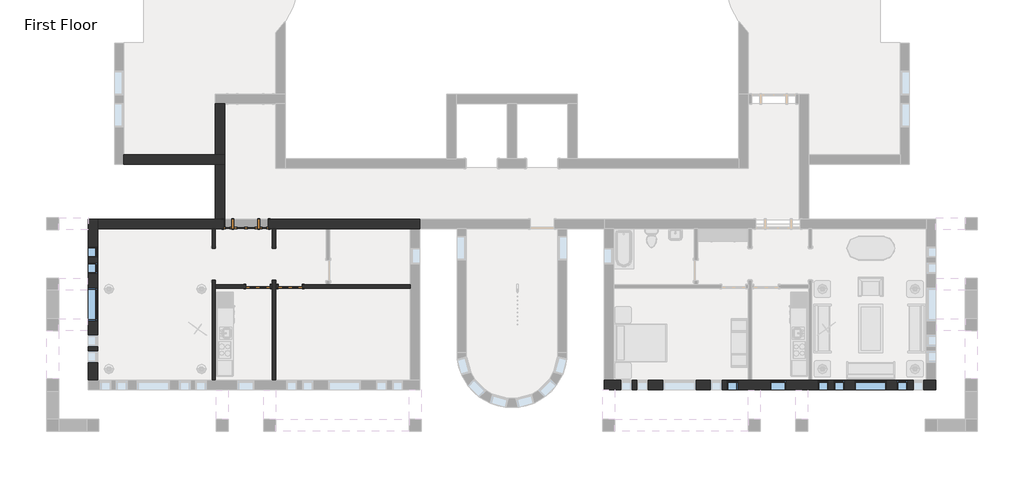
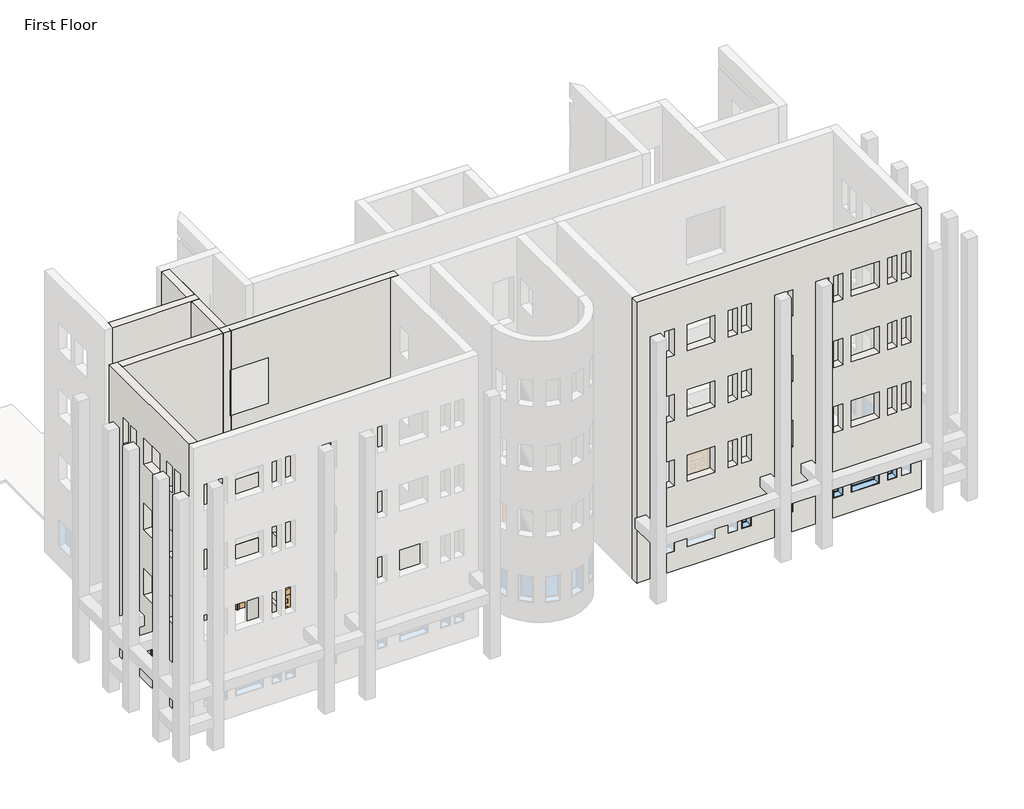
# One storey, part 3 of 23: 10 walls, 9 windows, 3 doors.
"""IFC4 building model written with IfcOpenShell, lengths in millimetres."""

from ifc_helpers import new_model, si_unit, frame, origin, place, context, project, spatial, polyline, outline, extrude, faceted_brep, transform, mapped, element, save
from components import door_829da954, door_2e3b4da2, door_dba5aa2e, window_da97879f, window_d61ef850, window_ed80354a, window_6eb97611, window_d89bf842

model = new_model("IFC4")

# Units and contexts
model_context = context("Model", 3, world=origin())
ifc_project = project(units=[si_unit("LENGTHUNIT", "METRE", prefix="MILLI")], contexts=[model_context])

# Site, building, storey
site = spatial("IfcSite", under=ifc_project)
building = spatial("IfcBuilding", under=site)
storey = spatial("IfcBuildingStorey", under=building, Name="First Floor", Elevation=0.0)

# Doors
placement = place(None, origin())
door_shape = door_829da954(model_context)
element("IfcDoor", 1, ObjectType="Single-Decorative 2 : 36\" x 84\"", at=placement, inside=storey, context=model_context, shape_type="MappedRepresentation", body=[
    mapped(door_shape, transform((-24674.4839563, -30331.8808133, 0.0), x_axis=(1.0, 0.0, 0.0), y_axis=(0.0, 1.0, 0.0), z_axis=(0.0, 0.0, 1.0))),
])
door_2_shape = door_2e3b4da2(model_context)
element("IfcDoor", 2, ObjectType="Single-Decorative 2 : 36\" x 84\"", at=placement, inside=storey, context=model_context, shape_type="MappedRepresentation", body=[
    mapped(door_2_shape, transform((-23455.2839563, -30331.8808133, 0.0), x_axis=(-1.0, 0.0, 0.0), y_axis=(0.0, -1.0, 0.0), z_axis=(0.0, 0.0, 1.0))),
])
door_3_shape = door_dba5aa2e(model_context)
element("IfcDoor", 3, ObjectType="Single-Raised Panel with Sidelights : 36\" x 84\"", at=placement, inside=storey, context=model_context, shape_type="MappedRepresentation", body=[
    mapped(door_3_shape, transform((-25131.6839563, -27958.5683133, 0.0), x_axis=(1.0, 0.0, 0.0), y_axis=(0.0, 1.0, 0.0), z_axis=(0.0, 0.0, 1.0))),
])

# Walls
element("IfcWall", 4, ObjectType="Exterior - Brick on Mtl. Stud", at=placement, inside=storey, context=model_context, shape_type="Brep", body=[
    faceted_brep([(-11569.6714563, -34230.7808133, 0.0), (-11382.3464563, -34230.7808133, 0.0), (787.4285437, -34230.7808133, 0.0), (974.7535437, -34230.7808133, 0.0), (974.7535437, -34230.7808133, 13106.4), (-11569.6714563, -34230.7808133, 13106.4), (-90.4589563, -34230.7808133, 8229.6), (-90.4589563, -34230.7808133, 7010.4), (-496.8589563, -34230.7808133, 7010.4), (-496.8589563, -34230.7808133, 8229.6), (519.1410437, -34230.7808133, 8229.6), (519.1410437, -34230.7808133, 7010.4), (112.7410437, -34230.7808133, 7010.4), (112.7410437, -34230.7808133, 8229.6), (-2884.4589563, -34230.7808133, 8229.6), (-2478.0589563, -34230.7808133, 8229.6), (-2478.0589563, -34230.7808133, 7010.4), (-2884.4589563, -34230.7808133, 7010.4), (-3494.0589563, -34230.7808133, 8229.6), (-3087.6589563, -34230.7808133, 8229.6), (-3087.6589563, -34230.7808133, 7010.4), (-3494.0589563, -34230.7808133, 7010.4), (-7126.2589563, -34230.7808133, 8229.6), (-7126.2589563, -34230.7808133, 7010.4), (-7532.6589563, -34230.7808133, 7010.4), (-7532.6589563, -34230.7808133, 8229.6), (-6516.6589563, -34230.7808133, 8229.6), (-6516.6589563, -34230.7808133, 7010.4), (-6923.0589563, -34230.7808133, 7010.4), (-6923.0589563, -34230.7808133, 8229.6), (-10326.6589563, -34230.7808133, 8229.6), (-9920.2589563, -34230.7808133, 8229.6), (-9920.2589563, -34230.7808133, 7010.4), (-10326.6589563, -34230.7808133, 7010.4), (-10936.2589563, -34230.7808133, 8229.6), (-10529.8589563, -34230.7808133, 8229.6), (-10529.8589563, -34230.7808133, 7010.4), (-10936.2589563, -34230.7808133, 7010.4), (-2097.0589563, -34230.7808133, 8229.6), (-877.8589563, -34230.7808133, 8229.6), (-877.8589563, -34230.7808133, 7010.4), (-2097.0589563, -34230.7808133, 7010.4), (-9336.0589563, -34230.7808133, 8229.6), (-8116.8589563, -34230.7808133, 8229.6), (-8116.8589563, -34230.7808133, 7010.4), (-9336.0589563, -34230.7808133, 7010.4), (-5297.4589563, -34230.7808133, 8229.6), (-4687.8589563, -34230.7808133, 8229.6), (-4687.8589563, -34230.7808133, 7010.4), (-5297.4589563, -34230.7808133, 7010.4), (-90.4589563, -34230.7808133, 5181.6), (-90.4589563, -34230.7808133, 3962.4), (-496.8589563, -34230.7808133, 3962.4), (-496.8589563, -34230.7808133, 5181.6), (519.1410437, -34230.7808133, 5181.6), (519.1410437, -34230.7808133, 3962.4), (112.7410437, -34230.7808133, 3962.4), (112.7410437, -34230.7808133, 5181.6), (-2884.4589563, -34230.7808133, 5181.6), (-2478.0589563, -34230.7808133, 5181.6), (-2478.0589563, -34230.7808133, 3962.4), (-2884.4589563, -34230.7808133, 3962.4), (-3494.0589563, -34230.7808133, 5181.6), (-3087.6589563, -34230.7808133, 5181.6), (-3087.6589563, -34230.7808133, 3962.4), (-3494.0589563, -34230.7808133, 3962.4), (-7126.2589563, -34230.7808133, 5181.6), (-7126.2589563, -34230.7808133, 3962.4), (-7532.6589563, -34230.7808133, 3962.4), (-7532.6589563, -34230.7808133, 5181.6), (-6516.6589563, -34230.7808133, 5181.6), (-6516.6589563, -34230.7808133, 3962.4), (-6923.0589563, -34230.7808133, 3962.4), (-6923.0589563, -34230.7808133, 5181.6), (-10326.6589563, -34230.7808133, 5181.6), (-9920.2589563, -34230.7808133, 5181.6), (-9920.2589563, -34230.7808133, 3962.4), (-10326.6589563, -34230.7808133, 3962.4), (-10936.2589563, -34230.7808133, 5181.6), (-10529.8589563, -34230.7808133, 5181.6), (-10529.8589563, -34230.7808133, 3962.4), (-10936.2589563, -34230.7808133, 3962.4), (-2097.0589563, -34230.7808133, 5181.6), (-877.8589563, -34230.7808133, 5181.6), (-877.8589563, -34230.7808133, 3962.4), (-2097.0589563, -34230.7808133, 3962.4), (-9336.0589563, -34230.7808133, 5181.6), (-8116.8589563, -34230.7808133, 5181.6), (-8116.8589563, -34230.7808133, 3962.4), (-9336.0589563, -34230.7808133, 3962.4), (-5297.4589563, -34230.7808133, 5181.6), (-4687.8589563, -34230.7808133, 5181.6), (-4687.8589563, -34230.7808133, 3962.4), (-5297.4589563, -34230.7808133, 3962.4), (-90.4589563, -34230.7808133, 11277.6), (-90.4589563, -34230.7808133, 10058.4), (-496.8589563, -34230.7808133, 10058.4), (-496.8589563, -34230.7808133, 11277.6), (519.1410437, -34230.7808133, 11277.6), (519.1410437, -34230.7808133, 10058.4), (112.7410437, -34230.7808133, 10058.4), (112.7410437, -34230.7808133, 11277.6), (-2884.4589563, -34230.7808133, 11277.6), (-2478.0589563, -34230.7808133, 11277.6), (-2478.0589563, -34230.7808133, 10058.4), (-2884.4589563, -34230.7808133, 10058.4), (-3494.0589563, -34230.7808133, 11277.6), (-3087.6589563, -34230.7808133, 11277.6), (-3087.6589563, -34230.7808133, 10058.4), (-3494.0589563, -34230.7808133, 10058.4), (-7126.2589563, -34230.7808133, 11277.6), (-7126.2589563, -34230.7808133, 10058.4), (-7532.6589563, -34230.7808133, 10058.4), (-7532.6589563, -34230.7808133, 11277.6), (-6516.6589563, -34230.7808133, 11277.6), (-6516.6589563, -34230.7808133, 10058.4), (-6923.0589563, -34230.7808133, 10058.4), (-6923.0589563, -34230.7808133, 11277.6), (-10326.6589563, -34230.7808133, 11277.6), (-9920.2589563, -34230.7808133, 11277.6), (-9920.2589563, -34230.7808133, 10058.4), (-10326.6589563, -34230.7808133, 10058.4), (-10936.2589563, -34230.7808133, 11277.6), (-10529.8589563, -34230.7808133, 11277.6), (-10529.8589563, -34230.7808133, 10058.4), (-10936.2589563, -34230.7808133, 10058.4), (-2097.0589563, -34230.7808133, 11277.6), (-877.8589563, -34230.7808133, 11277.6), (-877.8589563, -34230.7808133, 10058.4), (-2097.0589563, -34230.7808133, 10058.4), (-9336.0589563, -34230.7808133, 11277.6), (-8116.8589563, -34230.7808133, 11277.6), (-8116.8589563, -34230.7808133, 10058.4), (-9336.0589563, -34230.7808133, 10058.4), (-5297.4589563, -34230.7808133, 11277.6), (-4687.8589563, -34230.7808133, 11277.6), (-4687.8589563, -34230.7808133, 10058.4), (-5297.4589563, -34230.7808133, 10058.4), (-90.4589563, -34230.7808133, 2133.6), (-90.4589563, -34230.7808133, 914.4), (-496.8589563, -34230.7808133, 914.4), (-496.8589563, -34230.7808133, 2133.6), (519.1410437, -34230.7808133, 2133.6), (519.1410437, -34230.7808133, 914.4), (112.7410437, -34230.7808133, 914.4), (112.7410437, -34230.7808133, 2133.6), (-2884.4589563, -34230.7808133, 2133.6), (-2478.0589563, -34230.7808133, 2133.6), (-2478.0589563, -34230.7808133, 914.4), (-2884.4589563, -34230.7808133, 914.4), (-3494.0589563, -34230.7808133, 2133.6), (-3087.6589563, -34230.7808133, 2133.6), (-3087.6589563, -34230.7808133, 914.4), (-3494.0589563, -34230.7808133, 914.4), (-7126.2589563, -34230.7808133, 2133.6), (-7126.2589563, -34230.7808133, 914.4), (-7532.6589563, -34230.7808133, 914.4), (-7532.6589563, -34230.7808133, 2133.6), (-6516.6589563, -34230.7808133, 2133.6), (-6516.6589563, -34230.7808133, 914.4), (-6923.0589563, -34230.7808133, 914.4), (-6923.0589563, -34230.7808133, 2133.6), (-10326.6589563, -34230.7808133, 2133.6), (-9920.2589563, -34230.7808133, 2133.6), (-9920.2589563, -34230.7808133, 914.4), (-10326.6589563, -34230.7808133, 914.4), (-10936.2589563, -34230.7808133, 2133.6), (-10529.8589563, -34230.7808133, 2133.6), (-10529.8589563, -34230.7808133, 914.4), (-10936.2589563, -34230.7808133, 914.4), (-2097.0589563, -34230.7808133, 2133.6), (-877.8589563, -34230.7808133, 2133.6), (-877.8589563, -34230.7808133, 914.4), (-2097.0589563, -34230.7808133, 914.4), (-9336.0589563, -34230.7808133, 2133.6), (-8116.8589563, -34230.7808133, 2133.6), (-8116.8589563, -34230.7808133, 914.4), (-9336.0589563, -34230.7808133, 914.4), (-5297.4589563, -34230.7808133, 2133.6), (-4687.8589563, -34230.7808133, 2133.6), (-4687.8589563, -34230.7808133, 914.4), (-5297.4589563, -34230.7808133, 914.4), (-11569.6714563, -33878.3558133, 0.0), (-11569.6714563, -33878.3558133, 13106.4), (-11217.2464563, -33878.3558133, 13106.4), (622.3285437, -33878.3558133, 13106.4), (974.7535437, -33878.3558133, 13106.4), (974.7535437, -33878.3558133, 0.0), (787.4285437, -33878.3558133, 0.0), (622.3285437, -33878.3558133, 0.0), (-3709.9589563, -33878.3558133, 0.0), (-3836.9589563, -33878.3558133, 0.0), (-5995.9589563, -33878.3558133, 0.0), (-6122.9589563, -33878.3558133, 0.0), (-11217.2464563, -33878.3558133, 0.0), (-11382.3464563, -33878.3558133, 0.0), (-90.4589563, -33878.3558133, 8229.6), (-496.8589563, -33878.3558133, 8229.6), (-496.8589563, -33878.3558133, 7010.4), (-90.4589563, -33878.3558133, 7010.4), (519.1410437, -33878.3558133, 8229.6), (112.7410437, -33878.3558133, 8229.6), (112.7410437, -33878.3558133, 7010.4), (519.1410437, -33878.3558133, 7010.4), (-2884.4589563, -33878.3558133, 8229.6), (-2884.4589563, -33878.3558133, 7010.4), (-2478.0589563, -33878.3558133, 7010.4), (-2478.0589563, -33878.3558133, 8229.6), (-3494.0589563, -33878.3558133, 8229.6), (-3494.0589563, -33878.3558133, 7010.4), (-3087.6589563, -33878.3558133, 7010.4), (-3087.6589563, -33878.3558133, 8229.6), (-7126.2589563, -33878.3558133, 8229.6), (-7532.6589563, -33878.3558133, 8229.6), (-7532.6589563, -33878.3558133, 7010.4), (-7126.2589563, -33878.3558133, 7010.4), (-6516.6589563, -33878.3558133, 8229.6), (-6923.0589563, -33878.3558133, 8229.6), (-6923.0589563, -33878.3558133, 7010.4), (-6516.6589563, -33878.3558133, 7010.4), (-10326.6589563, -33878.3558133, 8229.6), (-10326.6589563, -33878.3558133, 7010.4), (-9920.2589563, -33878.3558133, 7010.4), (-9920.2589563, -33878.3558133, 8229.6), (-10936.2589563, -33878.3558133, 8229.6), (-10936.2589563, -33878.3558133, 7010.4), (-10529.8589563, -33878.3558133, 7010.4), (-10529.8589563, -33878.3558133, 8229.6), (-2097.0589563, -33878.3558133, 8229.6), (-2097.0589563, -33878.3558133, 7010.4), (-877.8589563, -33878.3558133, 7010.4), (-877.8589563, -33878.3558133, 8229.6), (-9336.0589563, -33878.3558133, 8229.6), (-9336.0589563, -33878.3558133, 7010.4), (-8116.8589563, -33878.3558133, 7010.4), (-8116.8589563, -33878.3558133, 8229.6), (-5297.4589563, -33878.3558133, 8229.6), (-5297.4589563, -33878.3558133, 7010.4), (-4687.8589563, -33878.3558133, 7010.4), (-4687.8589563, -33878.3558133, 8229.6), (-90.4589563, -33878.3558133, 5181.6), (-496.8589563, -33878.3558133, 5181.6), (-496.8589563, -33878.3558133, 3962.4), (-90.4589563, -33878.3558133, 3962.4), (519.1410437, -33878.3558133, 5181.6), (112.7410437, -33878.3558133, 5181.6), (112.7410437, -33878.3558133, 3962.4), (519.1410437, -33878.3558133, 3962.4), (-2884.4589563, -33878.3558133, 5181.6), (-2884.4589563, -33878.3558133, 3962.4), (-2478.0589563, -33878.3558133, 3962.4), (-2478.0589563, -33878.3558133, 5181.6), (-3494.0589563, -33878.3558133, 5181.6), (-3494.0589563, -33878.3558133, 3962.4), (-3087.6589563, -33878.3558133, 3962.4), (-3087.6589563, -33878.3558133, 5181.6), (-7126.2589563, -33878.3558133, 5181.6), (-7532.6589563, -33878.3558133, 5181.6), (-7532.6589563, -33878.3558133, 3962.4), (-7126.2589563, -33878.3558133, 3962.4), (-6516.6589563, -33878.3558133, 5181.6), (-6923.0589563, -33878.3558133, 5181.6), (-6923.0589563, -33878.3558133, 3962.4), (-6516.6589563, -33878.3558133, 3962.4), (-10326.6589563, -33878.3558133, 5181.6), (-10326.6589563, -33878.3558133, 3962.4), (-9920.2589563, -33878.3558133, 3962.4), (-9920.2589563, -33878.3558133, 5181.6), (-10936.2589563, -33878.3558133, 5181.6), (-10936.2589563, -33878.3558133, 3962.4), (-10529.8589563, -33878.3558133, 3962.4), (-10529.8589563, -33878.3558133, 5181.6), (-2097.0589563, -33878.3558133, 5181.6), (-2097.0589563, -33878.3558133, 3962.4), (-877.8589563, -33878.3558133, 3962.4), (-877.8589563, -33878.3558133, 5181.6), (-9336.0589563, -33878.3558133, 5181.6), (-9336.0589563, -33878.3558133, 3962.4), (-8116.8589563, -33878.3558133, 3962.4), (-8116.8589563, -33878.3558133, 5181.6), (-5297.4589563, -33878.3558133, 5181.6), (-5297.4589563, -33878.3558133, 3962.4), (-4687.8589563, -33878.3558133, 3962.4), (-4687.8589563, -33878.3558133, 5181.6), (-90.4589563, -33878.3558133, 11277.6), (-496.8589563, -33878.3558133, 11277.6), (-496.8589563, -33878.3558133, 10058.4), (-90.4589563, -33878.3558133, 10058.4), (519.1410437, -33878.3558133, 11277.6), (112.7410437, -33878.3558133, 11277.6), (112.7410437, -33878.3558133, 10058.4), (519.1410437, -33878.3558133, 10058.4), (-2884.4589563, -33878.3558133, 11277.6), (-2884.4589563, -33878.3558133, 10058.4), (-2478.0589563, -33878.3558133, 10058.4), (-2478.0589563, -33878.3558133, 11277.6), (-3494.0589563, -33878.3558133, 11277.6), (-3494.0589563, -33878.3558133, 10058.4), (-3087.6589563, -33878.3558133, 10058.4), (-3087.6589563, -33878.3558133, 11277.6), (-7126.2589563, -33878.3558133, 11277.6), (-7532.6589563, -33878.3558133, 11277.6), (-7532.6589563, -33878.3558133, 10058.4), (-7126.2589563, -33878.3558133, 10058.4), (-6516.6589563, -33878.3558133, 11277.6), (-6923.0589563, -33878.3558133, 11277.6), (-6923.0589563, -33878.3558133, 10058.4), (-6516.6589563, -33878.3558133, 10058.4), (-10326.6589563, -33878.3558133, 11277.6), (-10326.6589563, -33878.3558133, 10058.4), (-9920.2589563, -33878.3558133, 10058.4), (-9920.2589563, -33878.3558133, 11277.6), (-10936.2589563, -33878.3558133, 11277.6), (-10936.2589563, -33878.3558133, 10058.4), (-10529.8589563, -33878.3558133, 10058.4), (-10529.8589563, -33878.3558133, 11277.6), (-2097.0589563, -33878.3558133, 11277.6), (-2097.0589563, -33878.3558133, 10058.4), (-877.8589563, -33878.3558133, 10058.4), (-877.8589563, -33878.3558133, 11277.6), (-9336.0589563, -33878.3558133, 11277.6), (-9336.0589563, -33878.3558133, 10058.4), (-8116.8589563, -33878.3558133, 10058.4), (-8116.8589563, -33878.3558133, 11277.6), (-5297.4589563, -33878.3558133, 11277.6), (-5297.4589563, -33878.3558133, 10058.4), (-4687.8589563, -33878.3558133, 10058.4), (-4687.8589563, -33878.3558133, 11277.6), (-90.4589563, -33878.3558133, 2133.6), (-496.8589563, -33878.3558133, 2133.6), (-496.8589563, -33878.3558133, 914.4), (-90.4589563, -33878.3558133, 914.4), (519.1410437, -33878.3558133, 2133.6), (112.7410437, -33878.3558133, 2133.6), (112.7410437, -33878.3558133, 914.4), (519.1410437, -33878.3558133, 914.4), (-2884.4589563, -33878.3558133, 2133.6), (-2884.4589563, -33878.3558133, 914.4), (-2478.0589563, -33878.3558133, 914.4), (-2478.0589563, -33878.3558133, 2133.6), (-3494.0589563, -33878.3558133, 2133.6), (-3494.0589563, -33878.3558133, 914.4), (-3087.6589563, -33878.3558133, 914.4), (-3087.6589563, -33878.3558133, 2133.6), (-7126.2589563, -33878.3558133, 2133.6), (-7532.6589563, -33878.3558133, 2133.6), (-7532.6589563, -33878.3558133, 914.4), (-7126.2589563, -33878.3558133, 914.4), (-6516.6589563, -33878.3558133, 2133.6), (-6923.0589563, -33878.3558133, 2133.6), (-6923.0589563, -33878.3558133, 914.4), (-6516.6589563, -33878.3558133, 914.4), (-10326.6589563, -33878.3558133, 2133.6), (-10326.6589563, -33878.3558133, 914.4), (-9920.2589563, -33878.3558133, 914.4), (-9920.2589563, -33878.3558133, 2133.6), (-10936.2589563, -33878.3558133, 2133.6), (-10936.2589563, -33878.3558133, 914.4), (-10529.8589563, -33878.3558133, 914.4), (-10529.8589563, -33878.3558133, 2133.6), (-2097.0589563, -33878.3558133, 2133.6), (-2097.0589563, -33878.3558133, 914.4), (-877.8589563, -33878.3558133, 914.4), (-877.8589563, -33878.3558133, 2133.6), (-9336.0589563, -33878.3558133, 2133.6), (-9336.0589563, -33878.3558133, 914.4), (-8116.8589563, -33878.3558133, 914.4), (-8116.8589563, -33878.3558133, 2133.6), (-5297.4589563, -33878.3558133, 2133.6), (-5297.4589563, -33878.3558133, 914.4), (-4687.8589563, -33878.3558133, 914.4), (-4687.8589563, -33878.3558133, 2133.6), (974.7535437, -34043.4558133, 0.0), (-11569.6714563, -34043.4558133, 0.0), (-11382.3464563, -34043.4558133, 0.0), (787.4285437, -34043.4558133, 0.0)], [[[0, 1, 2, 3, 4, 5], [6, 7, 8, 9], [10, 11, 12, 13], [14, 15, 16, 17], [18, 19, 20, 21], [22, 23, 24, 25], [26, 27, 28, 29], [30, 31, 32, 33], [34, 35, 36, 37], [38, 39, 40, 41], [42, 43, 44, 45], [46, 47, 48, 49], [50, 51, 52, 53], [54, 55, 56, 57], [58, 59, 60, 61], [62, 63, 64, 65], [66, 67, 68, 69], [70, 71, 72, 73], [74, 75, 76, 77], [78, 79, 80, 81], [82, 83, 84, 85], [86, 87, 88, 89], [90, 91, 92, 93], [94, 95, 96, 97], [98, 99, 100, 101], [102, 103, 104, 105], [106, 107, 108, 109], [110, 111, 112, 113], [114, 115, 116, 117], [118, 119, 120, 121], [122, 123, 124, 125], [126, 127, 128, 129], [130, 131, 132, 133], [134, 135, 136, 137], [138, 139, 140, 141], [142, 143, 144, 145], [146, 147, 148, 149], [150, 151, 152, 153], [154, 155, 156, 157], [158, 159, 160, 161], [162, 163, 164, 165], [166, 167, 168, 169], [170, 171, 172, 173], [174, 175, 176, 177], [178, 179, 180, 181]], [[182, 183, 184, 185, 186, 187, 188, 189, 190, 191, 192, 193, 194, 195], [196, 197, 198, 199], [200, 201, 202, 203], [204, 205, 206, 207], [208, 209, 210, 211], [212, 213, 214, 215], [216, 217, 218, 219], [220, 221, 222, 223], [224, 225, 226, 227], [228, 229, 230, 231], [232, 233, 234, 235], [236, 237, 238, 239], [240, 241, 242, 243], [244, 245, 246, 247], [248, 249, 250, 251], [252, 253, 254, 255], [256, 257, 258, 259], [260, 261, 262, 263], [264, 265, 266, 267], [268, 269, 270, 271], [272, 273, 274, 275], [276, 277, 278, 279], [280, 281, 282, 283], [284, 285, 286, 287], [288, 289, 290, 291], [292, 293, 294, 295], [296, 297, 298, 299], [300, 301, 302, 303], [304, 305, 306, 307], [308, 309, 310, 311], [312, 313, 314, 315], [316, 317, 318, 319], [320, 321, 322, 323], [324, 325, 326, 327], [328, 329, 330, 331], [332, 333, 334, 335], [336, 337, 338, 339], [340, 341, 342, 343], [344, 345, 346, 347], [348, 349, 350, 351], [352, 353, 354, 355], [356, 357, 358, 359], [360, 361, 362, 363], [364, 365, 366, 367], [368, 369, 370, 371]], [[5, 4, 186, 185, 184, 183]], [[4, 3, 372, 187, 186]], [[0, 5, 183, 182, 373]], [[2, 1, 374, 375]], [[373, 182, 195, 374]], [[1, 0, 373, 374]], [[375, 188, 187, 372]], [[3, 2, 375, 372]], [[374, 195, 194, 193, 192, 191, 190, 189, 188, 375]], [[7, 6, 196, 199]], [[8, 7, 199, 198]], [[9, 8, 198, 197]], [[6, 9, 197, 196]], [[11, 10, 200, 203]], [[12, 11, 203, 202]], [[13, 12, 202, 201]], [[10, 13, 201, 200]], [[205, 204, 14, 17]], [[206, 205, 17, 16]], [[207, 206, 16, 15]], [[204, 207, 15, 14]], [[209, 208, 18, 21]], [[210, 209, 21, 20]], [[211, 210, 20, 19]], [[208, 211, 19, 18]], [[23, 22, 212, 215]], [[24, 23, 215, 214]], [[25, 24, 214, 213]], [[22, 25, 213, 212]], [[27, 26, 216, 219]], [[28, 27, 219, 218]], [[29, 28, 218, 217]], [[26, 29, 217, 216]], [[221, 220, 30, 33]], [[222, 221, 33, 32]], [[223, 222, 32, 31]], [[220, 223, 31, 30]], [[225, 224, 34, 37]], [[226, 225, 37, 36]], [[227, 226, 36, 35]], [[224, 227, 35, 34]], [[229, 228, 38, 41]], [[230, 229, 41, 40]], [[231, 230, 40, 39]], [[228, 231, 39, 38]], [[233, 232, 42, 45]], [[234, 233, 45, 44]], [[235, 234, 44, 43]], [[232, 235, 43, 42]], [[237, 236, 46, 49]], [[238, 237, 49, 48]], [[239, 238, 48, 47]], [[236, 239, 47, 46]], [[51, 50, 240, 243]], [[52, 51, 243, 242]], [[53, 52, 242, 241]], [[50, 53, 241, 240]], [[55, 54, 244, 247]], [[56, 55, 247, 246]], [[57, 56, 246, 245]], [[54, 57, 245, 244]], [[249, 248, 58, 61]], [[250, 249, 61, 60]], [[251, 250, 60, 59]], [[248, 251, 59, 58]], [[253, 252, 62, 65]], [[254, 253, 65, 64]], [[255, 254, 64, 63]], [[252, 255, 63, 62]], [[67, 66, 256, 259]], [[68, 67, 259, 258]], [[69, 68, 258, 257]], [[66, 69, 257, 256]], [[71, 70, 260, 263]], [[72, 71, 263, 262]], [[73, 72, 262, 261]], [[70, 73, 261, 260]], [[265, 264, 74, 77]], [[266, 265, 77, 76]], [[267, 266, 76, 75]], [[264, 267, 75, 74]], [[269, 268, 78, 81]], [[270, 269, 81, 80]], [[271, 270, 80, 79]], [[268, 271, 79, 78]], [[273, 272, 82, 85]], [[274, 273, 85, 84]], [[275, 274, 84, 83]], [[272, 275, 83, 82]], [[277, 276, 86, 89]], [[278, 277, 89, 88]], [[279, 278, 88, 87]], [[276, 279, 87, 86]], [[281, 280, 90, 93]], [[282, 281, 93, 92]], [[283, 282, 92, 91]], [[280, 283, 91, 90]], [[95, 94, 284, 287]], [[96, 95, 287, 286]], [[97, 96, 286, 285]], [[94, 97, 285, 284]], [[99, 98, 288, 291]], [[100, 99, 291, 290]], [[101, 100, 290, 289]], [[98, 101, 289, 288]], [[293, 292, 102, 105]], [[294, 293, 105, 104]], [[295, 294, 104, 103]], [[292, 295, 103, 102]], [[297, 296, 106, 109]], [[298, 297, 109, 108]], [[299, 298, 108, 107]], [[296, 299, 107, 106]], [[111, 110, 300, 303]], [[112, 111, 303, 302]], [[113, 112, 302, 301]], [[110, 113, 301, 300]], [[115, 114, 304, 307]], [[116, 115, 307, 306]], [[117, 116, 306, 305]], [[114, 117, 305, 304]], [[309, 308, 118, 121]], [[310, 309, 121, 120]], [[311, 310, 120, 119]], [[308, 311, 119, 118]], [[313, 312, 122, 125]], [[314, 313, 125, 124]], [[315, 314, 124, 123]], [[312, 315, 123, 122]], [[317, 316, 126, 129]], [[318, 317, 129, 128]], [[319, 318, 128, 127]], [[316, 319, 127, 126]], [[321, 320, 130, 133]], [[322, 321, 133, 132]], [[323, 322, 132, 131]], [[320, 323, 131, 130]], [[325, 324, 134, 137]], [[326, 325, 137, 136]], [[327, 326, 136, 135]], [[324, 327, 135, 134]], [[139, 138, 328, 331]], [[140, 139, 331, 330]], [[141, 140, 330, 329]], [[138, 141, 329, 328]], [[143, 142, 332, 335]], [[144, 143, 335, 334]], [[145, 144, 334, 333]], [[142, 145, 333, 332]], [[337, 336, 146, 149]], [[338, 337, 149, 148]], [[339, 338, 148, 147]], [[336, 339, 147, 146]], [[341, 340, 150, 153]], [[342, 341, 153, 152]], [[343, 342, 152, 151]], [[340, 343, 151, 150]], [[155, 154, 344, 347]], [[156, 155, 347, 346]], [[157, 156, 346, 345]], [[154, 157, 345, 344]], [[159, 158, 348, 351]], [[160, 159, 351, 350]], [[161, 160, 350, 349]], [[158, 161, 349, 348]], [[353, 352, 162, 165]], [[354, 353, 165, 164]], [[355, 354, 164, 163]], [[352, 355, 163, 162]], [[357, 356, 166, 169]], [[358, 357, 169, 168]], [[359, 358, 168, 167]], [[356, 359, 167, 166]], [[361, 360, 170, 173]], [[362, 361, 173, 172]], [[363, 362, 172, 171]], [[360, 363, 171, 170]], [[365, 364, 174, 177]], [[366, 365, 177, 176]], [[367, 366, 176, 175]], [[364, 367, 175, 174]], [[369, 368, 178, 181]], [[370, 369, 181, 180]], [[371, 370, 180, 179]], [[368, 371, 179, 178]]]),
])
element("IfcWall", 5, ObjectType="Exterior - Brick on Mtl. Stud", at=placement, inside=storey, context=model_context, shape_type="Brep", body=[
    faceted_brep([(-26287.3839563, -23410.3808133, 0.0), (-26287.3839563, -28134.7808133, 0.0), (-26287.3839563, -28134.7808133, 13106.4), (-26287.3839563, -23410.3808133, 13106.4), (-25934.9589563, -23410.3808133, 0.0), (-25934.9589563, -23410.3808133, 13106.4), (-25934.9589563, -27782.3558133, 13106.4), (-25934.9589563, -28134.7808133, 13106.4), (-25934.9589563, -28134.7808133, 0.0), (-25934.9589563, -27782.3558133, 0.0)], [[[0, 1, 2, 3]], [[4, 5, 6, 7, 8, 9]], [[1, 0, 4, 9, 8]], [[3, 2, 7, 6, 5]], [[2, 1, 8, 7]], [[0, 3, 5, 4]]]),
])
element("IfcWall", 6, ObjectType="Exterior - Brick on Mtl. Stud", at=placement, inside=storey, context=model_context, shape_type="Brep", body=[
    faceted_brep([(-30746.6714563, -33878.3558133, 0.0), (-30746.6714563, -28134.7808133, 0.0), (-30746.6714563, -27969.6808133, 0.0), (-30746.6714563, -27782.3558133, 0.0), (-30746.6714563, -27782.3558133, 13106.4), (-30746.6714563, -28134.7808133, 13106.4), (-30746.6714563, -33878.3558133, 13106.4), (-30746.6714563, -29431.7683133, 8229.6), (-30746.6714563, -29431.7683133, 7010.4), (-30746.6714563, -29838.1683133, 7010.4), (-30746.6714563, -29838.1683133, 8229.6), (-30746.6714563, -28822.1683133, 8229.6), (-30746.6714563, -28822.1683133, 7010.4), (-30746.6714563, -29228.5683133, 7010.4), (-30746.6714563, -29228.5683133, 8229.6), (-30746.6714563, -32581.3683133, 8229.6), (-30746.6714563, -32174.9683133, 8229.6), (-30746.6714563, -32174.9683133, 7010.4), (-30746.6714563, -32581.3683133, 7010.4), (-30746.6714563, -33190.9683133, 8229.6), (-30746.6714563, -32784.5683133, 8229.6), (-30746.6714563, -32784.5683133, 7010.4), (-30746.6714563, -33190.9683133, 7010.4), (-30746.6714563, -31616.1683133, 8229.6), (-30746.6714563, -30396.9683133, 8229.6), (-30746.6714563, -30396.9683133, 7010.4), (-30746.6714563, -31616.1683133, 7010.4), (-30746.6714563, -29431.7683133, 5181.6), (-30746.6714563, -29431.7683133, 3962.4), (-30746.6714563, -29838.1683133, 3962.4), (-30746.6714563, -29838.1683133, 5181.6), (-30746.6714563, -28822.1683133, 5181.6), (-30746.6714563, -28822.1683133, 3962.4), (-30746.6714563, -29228.5683133, 3962.4), (-30746.6714563, -29228.5683133, 5181.6), (-30746.6714563, -32581.3683133, 5181.6), (-30746.6714563, -32174.9683133, 5181.6), (-30746.6714563, -32174.9683133, 3962.4), (-30746.6714563, -32581.3683133, 3962.4), (-30746.6714563, -33190.9683133, 5181.6), (-30746.6714563, -32784.5683133, 5181.6), (-30746.6714563, -32784.5683133, 3962.4), (-30746.6714563, -33190.9683133, 3962.4), (-30746.6714563, -31616.1683133, 5181.6), (-30746.6714563, -30396.9683133, 5181.6), (-30746.6714563, -30396.9683133, 3962.4), (-30746.6714563, -31616.1683133, 3962.4), (-30746.6714563, -29431.7683133, 11277.6), (-30746.6714563, -29431.7683133, 10058.4), (-30746.6714563, -29838.1683133, 10058.4), (-30746.6714563, -29838.1683133, 11277.6), (-30746.6714563, -28822.1683133, 11277.6), (-30746.6714563, -28822.1683133, 10058.4), (-30746.6714563, -29228.5683133, 10058.4), (-30746.6714563, -29228.5683133, 11277.6), (-30746.6714563, -32581.3683133, 11277.6), (-30746.6714563, -32174.9683133, 11277.6), (-30746.6714563, -32174.9683133, 10058.4), (-30746.6714563, -32581.3683133, 10058.4), (-30746.6714563, -33190.9683133, 11277.6), (-30746.6714563, -32784.5683133, 11277.6), (-30746.6714563, -32784.5683133, 10058.4), (-30746.6714563, -33190.9683133, 10058.4), (-30746.6714563, -31616.1683133, 11277.6), (-30746.6714563, -30396.9683133, 11277.6), (-30746.6714563, -30396.9683133, 10058.4), (-30746.6714563, -31616.1683133, 10058.4), (-30746.6714563, -29431.7683133, 2133.6), (-30746.6714563, -29431.7683133, 914.4), (-30746.6714563, -29838.1683133, 914.4), (-30746.6714563, -29838.1683133, 2133.6), (-30746.6714563, -28822.1683133, 2133.6), (-30746.6714563, -28822.1683133, 914.4), (-30746.6714563, -29228.5683133, 914.4), (-30746.6714563, -29228.5683133, 2133.6), (-30746.6714563, -32581.3683133, 2133.6), (-30746.6714563, -32174.9683133, 2133.6), (-30746.6714563, -32174.9683133, 914.4), (-30746.6714563, -32581.3683133, 914.4), (-30746.6714563, -33190.9683133, 2133.6), (-30746.6714563, -32784.5683133, 2133.6), (-30746.6714563, -32784.5683133, 914.4), (-30746.6714563, -33190.9683133, 914.4), (-30746.6714563, -31616.1683133, 2133.6), (-30746.6714563, -30396.9683133, 2133.6), (-30746.6714563, -30396.9683133, 914.4), (-30746.6714563, -31616.1683133, 914.4), (-31099.0964563, -33878.3558133, 0.0), (-31099.0964563, -33878.3558133, 13106.4), (-31099.0964563, -27782.3558133, 13106.4), (-31099.0964563, -27782.3558133, 0.0), (-31099.0964563, -27969.6808133, 0.0), (-31099.0964563, -29431.7683133, 8229.6), (-31099.0964563, -29838.1683133, 8229.6), (-31099.0964563, -29838.1683133, 7010.4), (-31099.0964563, -29431.7683133, 7010.4), (-31099.0964563, -28822.1683133, 8229.6), (-31099.0964563, -29228.5683133, 8229.6), (-31099.0964563, -29228.5683133, 7010.4), (-31099.0964563, -28822.1683133, 7010.4), (-31099.0964563, -32581.3683133, 8229.6), (-31099.0964563, -32581.3683133, 7010.4), (-31099.0964563, -32174.9683133, 7010.4), (-31099.0964563, -32174.9683133, 8229.6), (-31099.0964563, -33190.9683133, 8229.6), (-31099.0964563, -33190.9683133, 7010.4), (-31099.0964563, -32784.5683133, 7010.4), (-31099.0964563, -32784.5683133, 8229.6), (-31099.0964563, -31616.1683133, 8229.6), (-31099.0964563, -31616.1683133, 7010.4), (-31099.0964563, -30396.9683133, 7010.4), (-31099.0964563, -30396.9683133, 8229.6), (-31099.0964563, -29431.7683133, 5181.6), (-31099.0964563, -29838.1683133, 5181.6), (-31099.0964563, -29838.1683133, 3962.4), (-31099.0964563, -29431.7683133, 3962.4), (-31099.0964563, -28822.1683133, 5181.6), (-31099.0964563, -29228.5683133, 5181.6), (-31099.0964563, -29228.5683133, 3962.4), (-31099.0964563, -28822.1683133, 3962.4), (-31099.0964563, -32581.3683133, 5181.6), (-31099.0964563, -32581.3683133, 3962.4), (-31099.0964563, -32174.9683133, 3962.4), (-31099.0964563, -32174.9683133, 5181.6), (-31099.0964563, -33190.9683133, 5181.6), (-31099.0964563, -33190.9683133, 3962.4), (-31099.0964563, -32784.5683133, 3962.4), (-31099.0964563, -32784.5683133, 5181.6), (-31099.0964563, -31616.1683133, 5181.6), (-31099.0964563, -31616.1683133, 3962.4), (-31099.0964563, -30396.9683133, 3962.4), (-31099.0964563, -30396.9683133, 5181.6), (-31099.0964563, -29431.7683133, 11277.6), (-31099.0964563, -29838.1683133, 11277.6), (-31099.0964563, -29838.1683133, 10058.4), (-31099.0964563, -29431.7683133, 10058.4), (-31099.0964563, -28822.1683133, 11277.6), (-31099.0964563, -29228.5683133, 11277.6), (-31099.0964563, -29228.5683133, 10058.4), (-31099.0964563, -28822.1683133, 10058.4), (-31099.0964563, -32581.3683133, 11277.6), (-31099.0964563, -32581.3683133, 10058.4), (-31099.0964563, -32174.9683133, 10058.4), (-31099.0964563, -32174.9683133, 11277.6), (-31099.0964563, -33190.9683133, 11277.6), (-31099.0964563, -33190.9683133, 10058.4), (-31099.0964563, -32784.5683133, 10058.4), (-31099.0964563, -32784.5683133, 11277.6), (-31099.0964563, -31616.1683133, 11277.6), (-31099.0964563, -31616.1683133, 10058.4), (-31099.0964563, -30396.9683133, 10058.4), (-31099.0964563, -30396.9683133, 11277.6), (-31099.0964563, -29431.7683133, 2133.6), (-31099.0964563, -29838.1683133, 2133.6), (-31099.0964563, -29838.1683133, 914.4), (-31099.0964563, -29431.7683133, 914.4), (-31099.0964563, -28822.1683133, 2133.6), (-31099.0964563, -29228.5683133, 2133.6), (-31099.0964563, -29228.5683133, 914.4), (-31099.0964563, -28822.1683133, 914.4), (-31099.0964563, -32581.3683133, 2133.6), (-31099.0964563, -32581.3683133, 914.4), (-31099.0964563, -32174.9683133, 914.4), (-31099.0964563, -32174.9683133, 2133.6), (-31099.0964563, -33190.9683133, 2133.6), (-31099.0964563, -33190.9683133, 914.4), (-31099.0964563, -32784.5683133, 914.4), (-31099.0964563, -32784.5683133, 2133.6), (-31099.0964563, -31616.1683133, 2133.6), (-31099.0964563, -31616.1683133, 914.4), (-31099.0964563, -30396.9683133, 914.4), (-31099.0964563, -30396.9683133, 2133.6), (-30911.7714563, -27782.3558133, 0.0), (-30911.7714563, -33878.3558133, 0.0), (-30911.7714563, -27969.6808133, 0.0)], [[[0, 1, 2, 3, 4, 5, 6], [7, 8, 9, 10], [11, 12, 13, 14], [15, 16, 17, 18], [19, 20, 21, 22], [23, 24, 25, 26], [27, 28, 29, 30], [31, 32, 33, 34], [35, 36, 37, 38], [39, 40, 41, 42], [43, 44, 45, 46], [47, 48, 49, 50], [51, 52, 53, 54], [55, 56, 57, 58], [59, 60, 61, 62], [63, 64, 65, 66], [67, 68, 69, 70], [71, 72, 73, 74], [75, 76, 77, 78], [79, 80, 81, 82], [83, 84, 85, 86]], [[87, 88, 89, 90, 91], [92, 93, 94, 95], [96, 97, 98, 99], [100, 101, 102, 103], [104, 105, 106, 107], [108, 109, 110, 111], [112, 113, 114, 115], [116, 117, 118, 119], [120, 121, 122, 123], [124, 125, 126, 127], [128, 129, 130, 131], [132, 133, 134, 135], [136, 137, 138, 139], [140, 141, 142, 143], [144, 145, 146, 147], [148, 149, 150, 151], [152, 153, 154, 155], [156, 157, 158, 159], [160, 161, 162, 163], [164, 165, 166, 167], [168, 169, 170, 171]], [[6, 5, 4, 89, 88]], [[4, 3, 172, 90, 89]], [[0, 6, 88, 87, 173]], [[173, 87, 91, 174]], [[3, 2, 174, 172]], [[174, 91, 90, 172]], [[2, 1, 0, 173, 174]], [[8, 7, 92, 95]], [[9, 8, 95, 94]], [[10, 9, 94, 93]], [[7, 10, 93, 92]], [[12, 11, 96, 99]], [[13, 12, 99, 98]], [[14, 13, 98, 97]], [[11, 14, 97, 96]], [[101, 100, 15, 18]], [[102, 101, 18, 17]], [[103, 102, 17, 16]], [[100, 103, 16, 15]], [[105, 104, 19, 22]], [[106, 105, 22, 21]], [[107, 106, 21, 20]], [[104, 107, 20, 19]], [[109, 108, 23, 26]], [[110, 109, 26, 25]], [[111, 110, 25, 24]], [[108, 111, 24, 23]], [[28, 27, 112, 115]], [[29, 28, 115, 114]], [[30, 29, 114, 113]], [[27, 30, 113, 112]], [[32, 31, 116, 119]], [[33, 32, 119, 118]], [[34, 33, 118, 117]], [[31, 34, 117, 116]], [[121, 120, 35, 38]], [[122, 121, 38, 37]], [[123, 122, 37, 36]], [[120, 123, 36, 35]], [[125, 124, 39, 42]], [[126, 125, 42, 41]], [[127, 126, 41, 40]], [[124, 127, 40, 39]], [[129, 128, 43, 46]], [[130, 129, 46, 45]], [[131, 130, 45, 44]], [[128, 131, 44, 43]], [[48, 47, 132, 135]], [[49, 48, 135, 134]], [[50, 49, 134, 133]], [[47, 50, 133, 132]], [[52, 51, 136, 139]], [[53, 52, 139, 138]], [[54, 53, 138, 137]], [[51, 54, 137, 136]], [[141, 140, 55, 58]], [[142, 141, 58, 57]], [[143, 142, 57, 56]], [[140, 143, 56, 55]], [[145, 144, 59, 62]], [[146, 145, 62, 61]], [[147, 146, 61, 60]], [[144, 147, 60, 59]], [[149, 148, 63, 66]], [[150, 149, 66, 65]], [[151, 150, 65, 64]], [[148, 151, 64, 63]], [[68, 67, 152, 155]], [[69, 68, 155, 154]], [[70, 69, 154, 153]], [[67, 70, 153, 152]], [[72, 71, 156, 159]], [[73, 72, 159, 158]], [[74, 73, 158, 157]], [[71, 74, 157, 156]], [[161, 160, 75, 78]], [[162, 161, 78, 77]], [[163, 162, 77, 76]], [[160, 163, 76, 75]], [[165, 164, 79, 82]], [[166, 165, 82, 81]], [[167, 166, 81, 80]], [[164, 167, 80, 79]], [[169, 168, 83, 86]], [[170, 169, 86, 85]], [[171, 170, 85, 84]], [[168, 171, 84, 83]]]),
])
element("IfcWall", 7, ObjectType="Exterior - Brick on Mtl. Stud", at=placement, inside=storey, context=model_context, shape_type="Brep", body=[
    faceted_brep([(-24293.4839563, -28134.7808133, 2133.6), (-24293.4839563, -28134.7808133, 0.0), (-24128.3839563, -28134.7808133, 0.0), (-24001.3839563, -28134.7808133, 0.0), (-22082.0964563, -28134.7808133, 0.0), (-21955.0964563, -28134.7808133, 0.0), (-18907.0964563, -28134.7808133, 0.0), (-18554.6714563, -28134.7808133, 0.0), (-18553.0839563, -28134.7808133, 0.0), (-18553.0839563, -28134.7808133, 13106.4), (-18554.6714563, -28134.7808133, 13106.4), (-18907.0964563, -28134.7808133, 13106.4), (-30746.6714563, -28134.7808133, 13106.4), (-30746.6714563, -28134.7808133, 0.0), (-26414.3839563, -28134.7808133, 0.0), (-26287.3839563, -28134.7808133, 0.0), (-25969.8839563, -28134.7808133, 0.0), (-25969.8839563, -28134.7808133, 2133.6), (-25969.8839563, -28134.7808133, 6096.0), (-25969.8839563, -28134.7808133, 8229.6), (-24293.4839563, -28134.7808133, 8229.6), (-24293.4839563, -28134.7808133, 6096.0), (-25969.8839563, -28134.7808133, 3048.0), (-25969.8839563, -28134.7808133, 5181.6), (-24293.4839563, -28134.7808133, 5181.6), (-24293.4839563, -28134.7808133, 3048.0), (-25969.8839563, -28134.7808133, 9144.0), (-25969.8839563, -28134.7808133, 11277.6), (-24293.4839563, -28134.7808133, 11277.6), (-24293.4839563, -28134.7808133, 9144.0), (-18553.0839563, -27782.3558133, 0.0), (-24293.4839563, -27782.3558133, 0.0), (-24293.4839563, -27782.3558133, 2133.6), (-25969.8839563, -27782.3558133, 2133.6), (-25969.8839563, -27782.3558133, 0.0), (-30746.6714563, -27782.3558133, 0.0), (-30746.6714563, -27782.3558133, 13106.4), (-18553.0839563, -27782.3558133, 13106.4), (-25969.8839563, -27782.3558133, 6096.0), (-24293.4839563, -27782.3558133, 6096.0), (-24293.4839563, -27782.3558133, 8229.6), (-25969.8839563, -27782.3558133, 8229.6), (-25969.8839563, -27782.3558133, 3048.0), (-24293.4839563, -27782.3558133, 3048.0), (-24293.4839563, -27782.3558133, 5181.6), (-25969.8839563, -27782.3558133, 5181.6), (-25969.8839563, -27782.3558133, 9144.0), (-24293.4839563, -27782.3558133, 9144.0), (-24293.4839563, -27782.3558133, 11277.6), (-25969.8839563, -27782.3558133, 11277.6)], [[[0, 1, 2, 3, 4, 5, 6, 7, 8, 9, 10, 11, 12, 13, 14, 15, 16, 17], [18, 19, 20, 21], [22, 23, 24, 25], [26, 27, 28, 29]], [[30, 31, 32, 33, 34, 35, 36, 37], [38, 39, 40, 41], [42, 43, 44, 45], [46, 47, 48, 49]], [[8, 7, 6, 5, 4, 3, 2, 1, 31, 30]], [[16, 15, 14, 13, 35, 34]], [[9, 8, 30, 37]], [[12, 11, 10, 9, 37, 36]], [[13, 12, 36, 35]], [[32, 31, 1, 0]], [[33, 32, 0, 17]], [[34, 33, 17, 16]], [[39, 38, 18, 21]], [[40, 39, 21, 20]], [[41, 40, 20, 19]], [[38, 41, 19, 18]], [[43, 42, 22, 25]], [[44, 43, 25, 24]], [[45, 44, 24, 23]], [[42, 45, 23, 22]], [[47, 46, 26, 29]], [[48, 47, 29, 28]], [[49, 48, 28, 27]], [[46, 49, 27, 26]]]),
])
element("IfcWall", 8, ObjectType="Exterior - Brick on Mtl. Stud", at=placement, inside=storey, context=model_context, shape_type="Brep", body=[
    faceted_brep([(-29744.9589563, -25696.3808133, 0.0), (-25934.9589563, -25696.3808133, 0.0), (-25934.9589563, -25696.3808133, 13106.4), (-29744.9589563, -25696.3808133, 13106.4), (-25934.9589563, -25343.9558133, 0.0), (-26287.3839563, -25343.9558133, 0.0), (-29744.9589563, -25343.9558133, 0.0), (-29744.9589563, -25343.9558133, 12192.0), (-26287.3839563, -25343.9558133, 12192.0), (-26274.6839563, -25343.9558133, 12192.0), (-26274.6839563, -25343.9558133, 12420.6), (-26287.3839563, -25343.9558133, 12420.6), (-29744.9589563, -25343.9558133, 12420.6), (-29744.9589563, -25343.9558133, 13106.4), (-26287.3839563, -25343.9558133, 13106.4), (-25934.9589563, -25343.9558133, 13106.4), (-29744.9589563, -25356.6558133, 12420.6), (-29744.9589563, -25356.6558133, 12192.0), (-26274.6839563, -25356.6558133, 12192.0), (-26274.6839563, -25356.6558133, 12420.6)], [[[0, 1, 2, 3]], [[4, 5, 6, 7, 8, 9, 10, 11, 12, 13, 14, 15]], [[1, 0, 6, 5, 4]], [[3, 2, 15, 14, 13]], [[2, 1, 4, 15]], [[0, 3, 13, 12, 16, 17, 7, 6]], [[17, 18, 9, 8, 7]], [[10, 19, 16, 12, 11]], [[19, 18, 17, 16]], [[18, 19, 10, 9]]]),
])
element("IfcWall", 9, ObjectType="Exterior - Brick on Mtl. Stud", at=placement, inside=storey, context=model_context, shape_type="SweptSolid", body=[
    extrude(outline(polyline([(0.0, -25934.9589563), (13106.4, -25934.9589563), (13106.4, -26287.3839563), (12420.6, -26287.3839563), (12420.6, -26274.6839563), (12192.0, -26274.6839563), (12192.0, -26287.3839563), (0.0, -26287.3839563), (0.0, -25934.9589563)])), frame((0.0, -25343.9558133, 0.0), z_axis=(0.0, 1.0, 0.0), x_axis=(0.0, 0.0, 1.0)), (0.0, 0.0, 1.0), 1933.575),
])
element("IfcWall", 10, ObjectType="Interior - 5\" Partition (2-hr)", at=placement, inside=storey, context=model_context, shape_type="Brep", body=[
    faceted_brep([(-26287.3839563, -33878.3558133, 0.0), (-26287.3839563, -30395.3808133, 0.0), (-26287.3839563, -30268.3808133, 0.0), (-26287.3839563, -30092.1683133, 0.0), (-26287.3839563, -30092.1683133, 2133.6), (-26287.3839563, -28872.9683133, 2133.6), (-26287.3839563, -28872.9683133, 0.0), (-26287.3839563, -28134.7808133, 0.0), (-26287.3839563, -28134.7808133, 3048.0), (-26287.3839563, -30268.3808133, 3048.0), (-26287.3839563, -30395.3808133, 3048.0), (-26287.3839563, -33878.3558133, 3048.0), (-26414.3839563, -30092.1683133, 2133.6), (-26414.3839563, -30092.1683133, 0.0), (-26414.3839563, -33878.3558133, 0.0), (-26414.3839563, -33878.3558133, 3048.0), (-26414.3839563, -28134.7808133, 3048.0), (-26414.3839563, -28134.7808133, 0.0), (-26414.3839563, -28872.9683133, 0.0), (-26414.3839563, -28872.9683133, 2133.6)], [[[0, 1, 2, 3, 4, 5, 6, 7, 8, 9, 10, 11]], [[12, 13, 14, 15, 16, 17, 18, 19]], [[14, 13, 3, 2, 1, 0]], [[18, 17, 7, 6]], [[11, 10, 9, 8, 16, 15]], [[0, 11, 15, 14]], [[8, 7, 17, 16]], [[6, 5, 19, 18]], [[4, 3, 13, 12]], [[5, 4, 12, 19]]]),
])
element("IfcWall", 11, ObjectType="Interior - 5\" Partition (2-hr)", at=placement, inside=storey, context=model_context, shape_type="Brep", body=[
    faceted_brep([(-24001.3839563, -28872.9683133, 2133.6), (-24001.3839563, -28872.9683133, 0.0), (-24001.3839563, -28134.7808133, 0.0), (-24001.3839563, -28134.7808133, 3048.0), (-24001.3839563, -30268.3808133, 3048.0), (-24001.3839563, -30395.3808133, 3048.0), (-24001.3839563, -33878.3558133, 3048.0), (-24001.3839563, -33878.3558133, 0.0), (-24001.3839563, -30395.3808133, 0.0), (-24001.3839563, -30268.3808133, 0.0), (-24001.3839563, -30092.1683133, 0.0), (-24001.3839563, -30092.1683133, 2133.6), (-24128.3839563, -28134.7808133, 0.0), (-24128.3839563, -28872.9683133, 0.0), (-24128.3839563, -28872.9683133, 2133.6), (-24128.3839563, -30092.1683133, 2133.6), (-24128.3839563, -30092.1683133, 0.0), (-24128.3839563, -30268.3808133, 0.0), (-24128.3839563, -30395.3808133, 0.0), (-24128.3839563, -33878.3558133, 0.0), (-24128.3839563, -33878.3558133, 3048.0), (-24128.3839563, -30395.3808133, 3048.0), (-24128.3839563, -30268.3808133, 3048.0), (-24128.3839563, -28134.7808133, 3048.0)], [[[0, 1, 2, 3, 4, 5, 6, 7, 8, 9, 10, 11]], [[12, 13, 14, 15, 16, 17, 18, 19, 20, 21, 22, 23]], [[2, 1, 13, 12]], [[10, 9, 8, 7, 19, 18, 17, 16]], [[6, 5, 4, 3, 23, 22, 21, 20]], [[7, 6, 20, 19]], [[3, 2, 12, 23]], [[16, 15, 11, 10]], [[14, 13, 1, 0]], [[15, 14, 0, 11]]]),
])
element("IfcWall", 12, ObjectType="Interior - 5\" Partition (2-hr)", at=placement, inside=storey, context=model_context, shape_type="Brep", body=[
    faceted_brep([(-23912.4839563, -30268.3808133, 2133.6), (-23912.4839563, -30268.3808133, 0.0), (-24001.3839563, -30268.3808133, 0.0), (-24001.3839563, -30268.3808133, 3048.0), (-22082.0964563, -30268.3808133, 3048.0), (-21955.0964563, -30268.3808133, 3048.0), (-18907.0964563, -30268.3808133, 3048.0), (-18907.0964563, -30268.3808133, 0.0), (-21955.0964563, -30268.3808133, 0.0), (-22082.0964563, -30268.3808133, 0.0), (-22998.0839563, -30268.3808133, 0.0), (-22998.0839563, -30268.3808133, 2133.6), (-24001.3839563, -30395.3808133, 0.0), (-23912.4839563, -30395.3808133, 0.0), (-23912.4839563, -30395.3808133, 2133.6), (-22998.0839563, -30395.3808133, 2133.6), (-22998.0839563, -30395.3808133, 0.0), (-18907.0964563, -30395.3808133, 0.0), (-18907.0964563, -30395.3808133, 3048.0), (-24001.3839563, -30395.3808133, 3048.0)], [[[0, 1, 2, 3, 4, 5, 6, 7, 8, 9, 10, 11]], [[12, 13, 14, 15, 16, 17, 18, 19]], [[2, 1, 13, 12]], [[10, 9, 8, 7, 17, 16]], [[6, 5, 4, 3, 19, 18]], [[7, 6, 18, 17]], [[3, 2, 12, 19]], [[14, 13, 1, 0]], [[15, 14, 0, 11]], [[16, 15, 11, 10]]]),
])
element("IfcWall", 13, ObjectType="Interior - 5\" Partition (2-hr)", at=placement, inside=storey, context=model_context, shape_type="SweptSolid", body=[
    extrude(outline(polyline([(2133.6, -24217.2839563), (0.0, -24217.2839563), (0.0, -24128.3839563), (3048.0, -24128.3839563), (3048.0, -26287.3839563), (0.0, -26287.3839563), (0.0, -25131.6839563), (2133.6, -25131.6839563), (2133.6, -24217.2839563)])), frame((0.0, -30395.3808133, 0.0), z_axis=(0.0, 1.0, 0.0), x_axis=(0.0, 0.0, 1.0)), (0.0, 0.0, 1.0), 127.0),
])

# Windows
window_shape = window_da97879f(model_context)
element("IfcWindow", 14, ObjectType="Fixed : 16\" x 48\"", at=placement, inside=storey, context=model_context, shape_type="MappedRepresentation", body=[
    mapped(window_shape, transform((-6681.7589563, -34054.5683133, 0.0), x_axis=(1.0, 0.0, 0.0), y_axis=(0.0, 1.0, 0.0), z_axis=(0.0, 0.0, 1.0))),
])
element("IfcWindow", 15, ObjectType="Fixed : 16\" x 48\"", at=placement, inside=storey, context=model_context, shape_type="MappedRepresentation", body=[
    mapped(window_shape, transform((-255.5589563, -34054.5683133, 0.0), x_axis=(1.0, 0.0, 0.0), y_axis=(0.0, 1.0, 0.0), z_axis=(0.0, 0.0, 1.0))),
])
window_2_shape = window_d61ef850(model_context)
element("IfcWindow", 16, ObjectType="Fixed : 16\" x 48\"", at=placement, inside=storey, context=model_context, shape_type="MappedRepresentation", body=[
    mapped(window_2_shape, transform((-3328.9589563, -34054.5683133, 0.0), x_axis=(-1.0, 0.0, 0.0), y_axis=(0.0, -1.0, 0.0), z_axis=(0.0, 0.0, 1.0))),
])
element("IfcWindow", 17, ObjectType="Fixed : 16\" x 48\"", at=placement, inside=storey, context=model_context, shape_type="MappedRepresentation", body=[
    mapped(window_2_shape, transform((-2719.3589563, -34054.5683133, 0.0), x_axis=(-1.0, 0.0, 0.0), y_axis=(0.0, -1.0, 0.0), z_axis=(0.0, 0.0, 1.0))),
])
element("IfcWindow", 18, ObjectType="Fixed : 16\" x 48\"", at=placement, inside=storey, context=model_context, shape_type="MappedRepresentation", body=[
    mapped(window_2_shape, transform((-30922.8839563, -28987.2683133, 0.0), x_axis=(0.0, 1.0, 0.0), y_axis=(-1.0, 0.0, 0.0), z_axis=(0.0, 0.0, 1.0))),
])
element("IfcWindow", 19, ObjectType="Fixed : 16\" x 48\"", at=placement, inside=storey, context=model_context, shape_type="MappedRepresentation", body=[
    mapped(window_2_shape, transform((-30922.8839563, -29596.8683133, 0.0), x_axis=(0.0, 1.0, 0.0), y_axis=(-1.0, 0.0, 0.0), z_axis=(0.0, 0.0, 1.0))),
])
window_3_shape = window_ed80354a(model_context)
element("IfcWindow", 20, ObjectType="Fixed : 24\" x 48\"", at=placement, inside=storey, context=model_context, shape_type="MappedRepresentation", body=[
    mapped(window_3_shape, transform((-5030.7589563, -34054.5683133, 0.0), x_axis=(-1.0, 0.0, 0.0), y_axis=(0.0, -1.0, 0.0), z_axis=(0.0, 0.0, 1.0))),
])
window_4_shape = window_6eb97611(model_context)
element("IfcWindow", 21, ObjectType="Fixed : 48\" x 48\"", at=placement, inside=storey, context=model_context, shape_type="MappedRepresentation", body=[
    mapped(window_4_shape, transform((-30922.8839563, -31044.6683133, 0.0), x_axis=(0.0, -1.0, 0.0), y_axis=(1.0, 0.0, 0.0), z_axis=(0.0, 0.0, 1.0))),
])
window_5_shape = window_d89bf842(model_context)
element("IfcWindow", 22, ObjectType="Fixed : 48\" x 48\"", at=placement, inside=storey, context=model_context, shape_type="MappedRepresentation", body=[
    mapped(window_5_shape, transform((-1525.5589563, -34054.5683133, 0.0), x_axis=(-1.0, 0.0, 0.0), y_axis=(0.0, -1.0, 0.0), z_axis=(0.0, 0.0, 1.0))),
])

save(model, "model.ifc")
